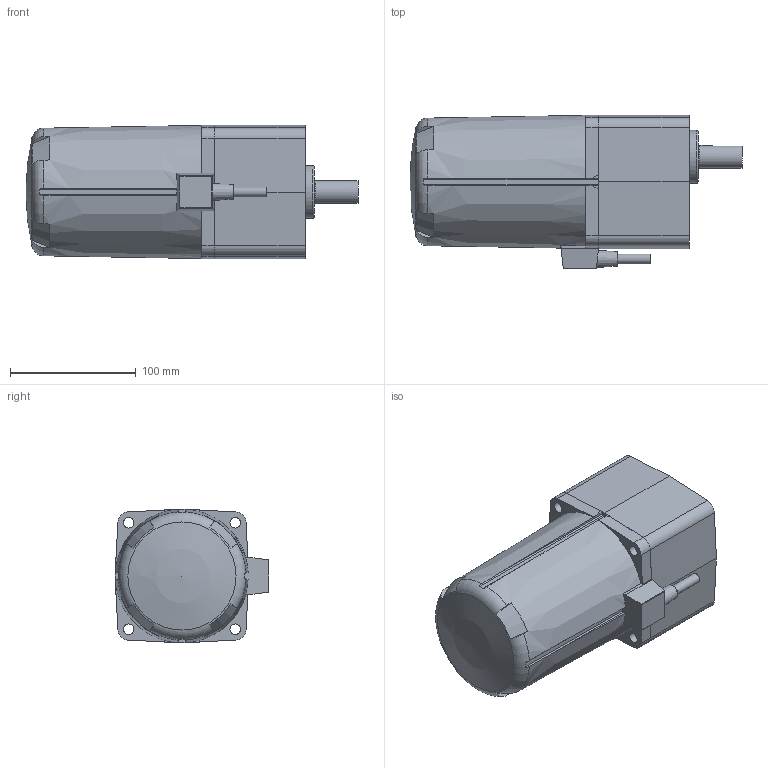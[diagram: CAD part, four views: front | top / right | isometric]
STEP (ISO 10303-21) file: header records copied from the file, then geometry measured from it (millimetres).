
FILE_DESCRIPTION(/* description */ ('STEP AP203'),/* implementation_level */ '2;1');
FILE_NAME(/* name */ 'FPW690S2-12.5',/* time_stamp */ '2026-10-27T03:09:08+01:00',/* author */ ('License CC BY-ND 4.0'),/* organization */ ('CADENAS'),/* preprocessor_version */ 'ST-DEVELOPER v20',/* originating_system */ 'PARTsolutions',/* authorisation */ ' ');
FILE_SCHEMA (('CONFIG_CONTROL_DESIGN'));
Length unit declared in the file: millimetre
Products named in the file (3): FPW690S2-12.5; FPW6900; FPW690-Motor
Assembly tree (2 placements, depth 2):
  FPW690S2-12.5
    FPW6900
    FPW690-Motor
Bounding box: 264.2 x 122.5 x 106.5 mm (x, y, z)
Volume: 2037741.8 mm3; surface area: 133054.4 mm2
Topology: 2 solids, 2 shells, 112 faces, 309 edges, 205 vertices
Faces by surface type: plane 59, cylinder 33, cone 16, torus 3, sphere 1
Full cylindrical faces by diameter (mm): 7.8 x1, 8.5 x8, 18 x1, 42 x1, 94 x1
Entity records: 3645 total; most frequent: CARTESIAN_POINT 795, DIRECTION 571, ORIENTED_EDGE 570, EDGE_CURVE 285, AXIS2_PLACEMENT_3D 214, VERTEX_POINT 199, EDGE_LOOP 150, FACE_BOUND 150
